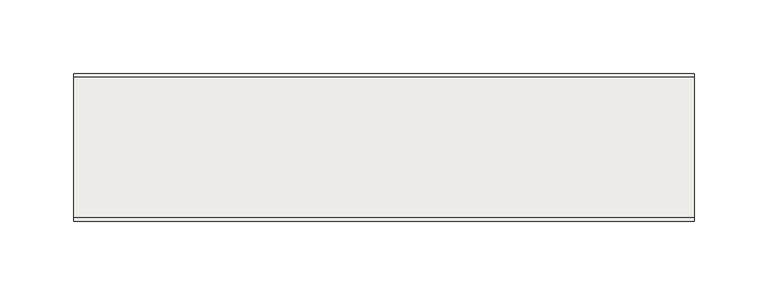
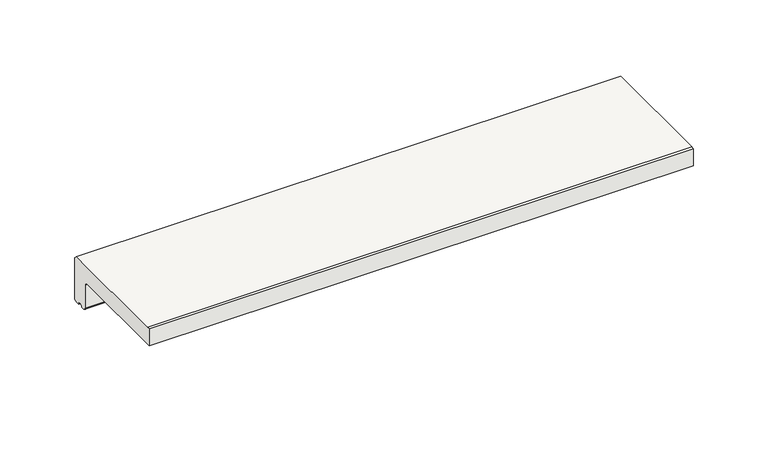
"""IFC4 building model written with IfcOpenShell, lengths in millimetres: slab geometry, ROSA GRES_L62 : Pieza L62_Mistery_Grey_Anti-Slip."""

from ifc_helpers import new_model, si_unit, point, frame, frame_2d, origin, place, context, project, spatial, polyline, circle_curve, trimmed, segment, composite_curve, outline, extrude, source, transform, mapped, element, save


def slab_a08d7ad8(model_context):
    return source(origin(), model_context, "Body", "SweptSolid", [
        extrude(outline(composite_curve([segment(trimmed(circle_curve(frame_2d((-12.1001991, -35.1001991)), 1.8998009), [point((-12.1001991, -37.0))], [point((-14.0, -35.1001991))], False, "CARTESIAN"), True, "CONTINUOUS"), segment(polyline([(-14.0, -35.1001991), (-14.0, -16.5836242)]), True, "CONTINUOUS"), segment(trimmed(circle_curve(frame_2d((-16.6422322, -16.5836242)), 2.6422322), [point((-14.0, -16.5836242))], [point((-16.6422322, -13.9413919))], True, "CARTESIAN"), True, "CONTINUOUS"), segment(polyline([(-16.6422322, -13.9413919), (-100.0, -13.9413919), (-100.0, -0.0284738), (-97.5, 0.0), (-2.5, 0.0), (0.0, -2.5), (0.0, -34.5)]), True, "CONTINUOUS"), segment(trimmed(circle_curve(frame_2d((-2.5, -34.5)), 2.5), [point((0.0, -34.5))], [point((-2.5, -37.0))], False, "CARTESIAN"), True, "CONTINUOUS"), segment(polyline([(-2.5, -37.0), (-5.422949, -37.0)]), True, "CONTINUOUS"), segment(trimmed(circle_curve(frame_2d((-7.4142134, -37.0)), 1.9912643), [point((-5.422949, -37.0))], [point((-9.4054777, -37.0))], True, "CARTESIAN"), True, "CONTINUOUS"), segment(polyline([(-9.4054777, -37.0), (-12.1001991, -37.0)]), True, "CONTINUOUS")], self_intersect=False)), frame((0.0, 0.0, 0.0), z_axis=(1.0, 0.0, 0.0), x_axis=(0.0, 1.0, 0.0)), (0.0, 0.0, 1.0), 421.0),
    ])


if __name__ == "__main__":
    model = new_model("IFC4")
    model_context = context("Model", 3, world=origin())
    ifc_project = project(units=[si_unit("LENGTHUNIT", "METRE", prefix="MILLI")], contexts=[model_context])
    site = spatial("IfcSite", under=ifc_project)
    building = spatial("IfcBuilding", under=site)
    placement = place(None, origin())
    slab_shape = slab_a08d7ad8(model_context)
    element("IfcSlab", 1, ObjectType="ROSA GRES_L62 : Pieza L62_Mistery_Grey_Anti-Slip", at=placement, inside=building, context=model_context, shape_type="MappedRepresentation", body=[
        mapped(slab_shape, transform((0.0, 0.0, 0.0), x_axis=(1.0, 0.0, 0.0), y_axis=(0.0, 1.0, 0.0), z_axis=(0.0, 0.0, 1.0))),
    ])
    save(model, "model.ifc")
